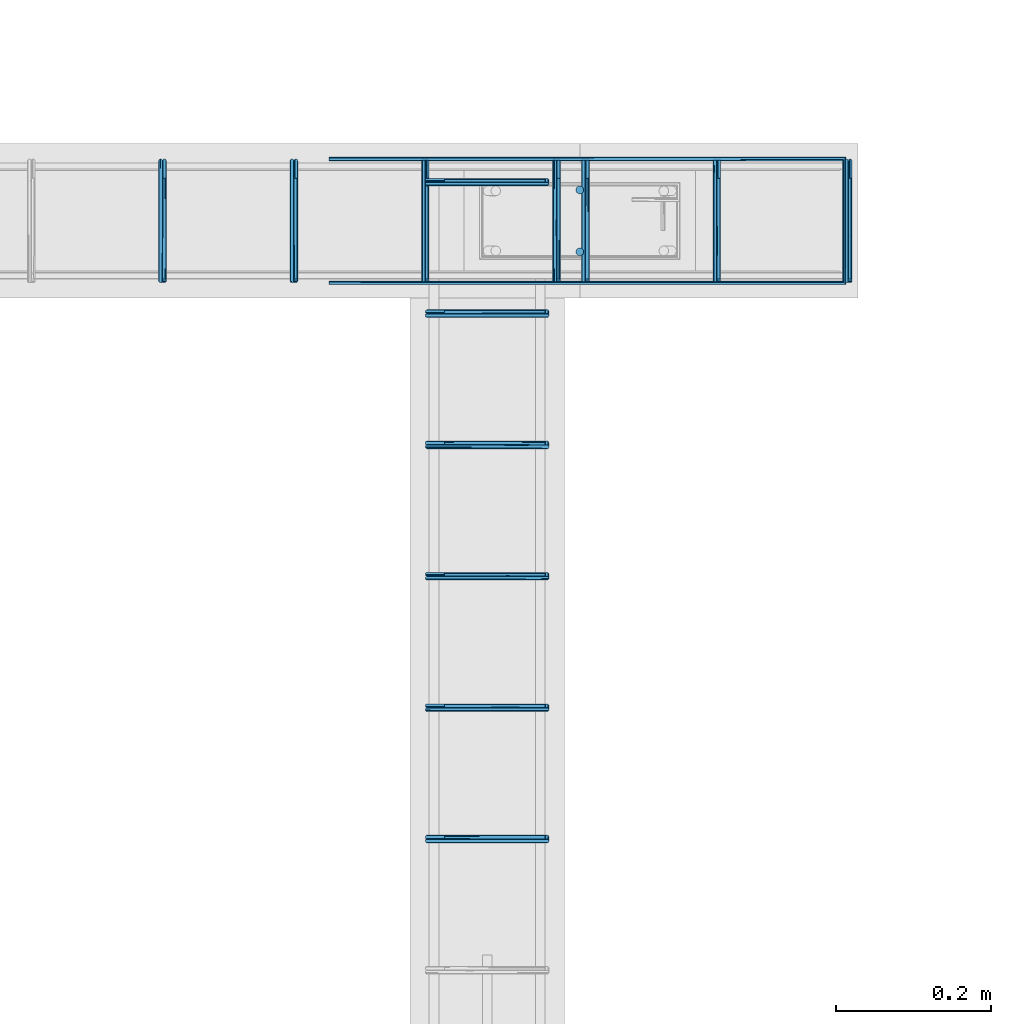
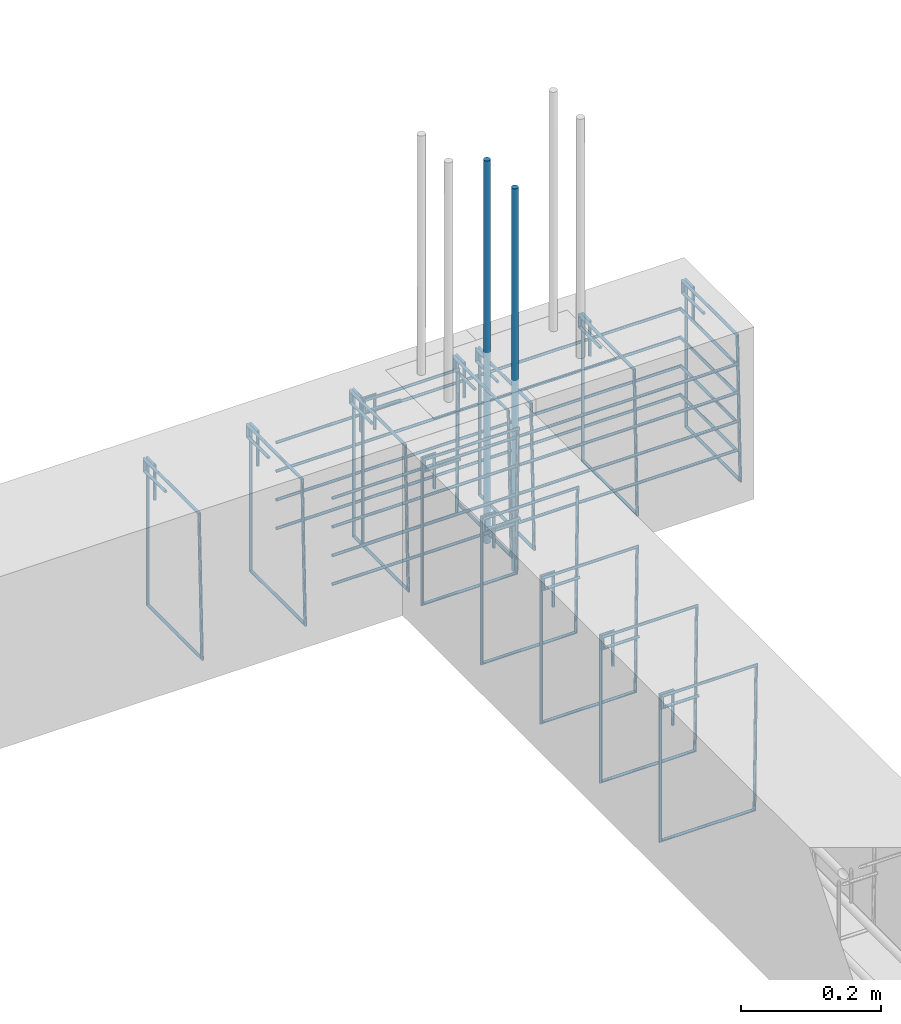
# One storey, part 146 of 150: 19 reinforcing bars.
"""IFC4 building model written with IfcOpenShell, lengths in centimetres."""

from ifc_helpers import new_model, entity, si_unit, derived_unit, frame, origin_with_axes, place, context, project, spatial, source, transform, mapped, element, save


model = new_model("IFC4")

# Units and contexts
model_context = context("Model", 3, precision=1e-05, world=origin_with_axes(), identifier="Body")
ifc_project = project(units=[si_unit("LENGTHUNIT", "METRE", prefix="CENTI"), si_unit("VOLUMEUNIT", "CUBIC_METRE"), si_unit("AREAUNIT", "SQUARE_METRE"), si_unit("POWERUNIT", "WATT"), si_unit("LUMINOUSFLUXUNIT", "LUMEN"), si_unit("ELECTRICCURRENTUNIT", "AMPERE"), si_unit("PRESSUREUNIT", "PASCAL", prefix="KILO"), si_unit("MASSUNIT", "GRAM", prefix="KILO"), si_unit("PLANEANGLEUNIT", "RADIAN"), derived_unit("VOLUMETRICFLOWRATEUNIT", [(si_unit("LENGTHUNIT", "METRE"), 3), (si_unit("TIMEUNIT", "SECOND"), -1)])], contexts=[model_context])

# Site, building, storey
site_placement = place(None, frame((-4000.0, 0.0, 0.0), z_axis=(0.0, 0.0, 1.0), x_axis=(1.0, 0.0, 0.0)))
site = spatial("IfcSite", under=ifc_project, at=site_placement, Name="PADRÃO")
building_placement = place(site_placement, frame((0.0, 0.0, -14.0)))
building = spatial("IfcBuilding", under=site, at=building_placement, Name="CRECHE PRÉ-ESCOLA TIPO 2")
placement = place(building_placement, origin_with_axes())
storey_placement = place(placement, frame((0.0, 0.0, 30.0), z_axis=(0.0, 0.0, 1.0), x_axis=(1.0, 0.0, 0.0)))
storey = spatial("IfcBuildingStorey", under=building, at=storey_placement, Name="VIGA BALDRAME", CompositionType="ELEMENT", Elevation=16.0)

# Reinforcing bars
shared_shape_1 = source(origin_with_axes(), model_context, "Body", "AdvancedSweptSolid", [
    entity("IfcSweptDiskSolid", entity("IfcCompositeCurve", [entity("IfcCompositeCurveSegment", "CONTINUOUS", True, entity("IfcPolyline", [entity("IfcCartesianPoint", [2.0, -6.0, 0.0]), entity("IfcCartesianPoint", [2.0, 0.0, 0.0])])), entity("IfcCompositeCurveSegment", "CONTINUOUS", True, entity("IfcPolyline", [entity("IfcCartesianPoint", [2.0, 0.0, 0.0]), entity("IfcCartesianPoint", [0.0, 0.0, 0.0])])), entity("IfcCompositeCurveSegment", "CONTINUOUS", True, entity("IfcPolyline", [entity("IfcCartesianPoint", [0.0, 0.0, 0.0]), entity("IfcCartesianPoint", [0.0, -25.5, 0.0])])), entity("IfcCompositeCurveSegment", "CONTINUOUS", True, entity("IfcPolyline", [entity("IfcCartesianPoint", [0.0, -25.5, 0.0]), entity("IfcCartesianPoint", [15.5, -25.5, 0.0])])), entity("IfcCompositeCurveSegment", "CONTINUOUS", True, entity("IfcPolyline", [entity("IfcCartesianPoint", [15.5, -25.5, 0.0]), entity("IfcCartesianPoint", [15.5, 0.0, 0.5])])), entity("IfcCompositeCurveSegment", "CONTINUOUS", True, entity("IfcPolyline", [entity("IfcCartesianPoint", [15.5, 0.0, 0.5]), entity("IfcCartesianPoint", [0.0, 0.0, 0.5])])), entity("IfcCompositeCurveSegment", "CONTINUOUS", True, entity("IfcPolyline", [entity("IfcCartesianPoint", [0.0, 0.0, 0.5]), entity("IfcCartesianPoint", [0.0, -2.0, 0.5])])), entity("IfcCompositeCurveSegment", "CONTINUOUS", True, entity("IfcPolyline", [entity("IfcCartesianPoint", [0.0, -2.0, 0.5]), entity("IfcCartesianPoint", [6.0, -2.0, 0.5])]))], False), 0.25),
])
for number, where, z_axis, x_axis, name in (
    (1, (3355.25, 3992.76, -2.25), (-1.0, 0.0, 0.0), (0.0, -1.0, 0.0), "V107 - Estribo"),
    (2, (3338.25, 3992.76, -2.25), (-1.0, 0.0, 0.0), (0.0, -1.0, 0.0), "V107 - Estribo"),
    (3, (3321.25, 3992.76, -2.25), (-1.0, 0.0, 0.0), (0.0, -1.0, 0.0), "V107 - Estribo"),
    (4, (3372.25, 3992.76, -2.25), (-1.0, 0.0, 0.0), (0.0, -1.0, 0.0), "V107 - Estribo"),
):
    element("IfcReinforcingBar", number, at=place(storey_placement, frame(where, z_axis=z_axis, x_axis=x_axis)), inside=storey, Name=name, BarLength=0.0, CrossSectionArea=1.9634954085e-05, NominalDiameter=0.5, PredefinedType="MAIN", context=model_context, shape_type="MappedRepresentation", body=[
        mapped(shared_shape_1, transform((0.0, 0.0, 0.0), scale=1.0)),
    ])
shared_shape_2 = source(origin_with_axes(), model_context, "Body", "AdvancedSweptSolid", [
    entity("IfcSweptDiskSolid", entity("IfcCompositeCurve", [entity("IfcCompositeCurveSegment", "CONTINUOUS", True, entity("IfcPolyline", [entity("IfcCartesianPoint", [2.0, -6.0, 0.0]), entity("IfcCartesianPoint", [2.0, 0.0, 0.0])])), entity("IfcCompositeCurveSegment", "CONTINUOUS", True, entity("IfcPolyline", [entity("IfcCartesianPoint", [2.0, 0.0, 0.0]), entity("IfcCartesianPoint", [0.0, 0.0, 0.0])])), entity("IfcCompositeCurveSegment", "CONTINUOUS", True, entity("IfcPolyline", [entity("IfcCartesianPoint", [0.0, 0.0, 0.0]), entity("IfcCartesianPoint", [0.0, -25.5, 0.0])])), entity("IfcCompositeCurveSegment", "CONTINUOUS", True, entity("IfcPolyline", [entity("IfcCartesianPoint", [0.0, -25.5, 0.0]), entity("IfcCartesianPoint", [15.5, -25.5, 0.0])])), entity("IfcCompositeCurveSegment", "CONTINUOUS", True, entity("IfcPolyline", [entity("IfcCartesianPoint", [15.5, -25.5, 0.0]), entity("IfcCartesianPoint", [15.5, 0.0, 0.5])])), entity("IfcCompositeCurveSegment", "CONTINUOUS", True, entity("IfcPolyline", [entity("IfcCartesianPoint", [15.5, 0.0, 0.5]), entity("IfcCartesianPoint", [0.0, 0.0, 0.5])])), entity("IfcCompositeCurveSegment", "CONTINUOUS", True, entity("IfcPolyline", [entity("IfcCartesianPoint", [0.0, 0.0, 0.5]), entity("IfcCartesianPoint", [0.0, -2.0, 0.5])])), entity("IfcCompositeCurveSegment", "CONTINUOUS", True, entity("IfcPolyline", [entity("IfcCartesianPoint", [0.0, -2.0, 0.5]), entity("IfcCartesianPoint", [6.0, -2.0, 0.5])]))], False), 0.25),
])
for number, where, z_axis, x_axis, name in (
    (5, (3375.99, 3992.76, -2.25), (-1.0, 0.0, 0.0), (0.0, -1.0, 0.0), "V107 - Estribo"),
    (6, (3409.99, 3992.76, -2.25), (-1.0, 0.0, 0.0), (0.0, -1.0, 0.0), "V107 - Estribo"),
    (7, (3392.99, 3992.76, -2.25), (-1.0, 0.0, 0.0), (0.0, -1.0, 0.0), "V107 - Estribo"),
):
    element("IfcReinforcingBar", number, at=place(storey_placement, frame(where, z_axis=z_axis, x_axis=x_axis)), inside=storey, Name=name, BarLength=0.0, CrossSectionArea=1.9634954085e-05, NominalDiameter=0.5, PredefinedType="MAIN", context=model_context, shape_type="MappedRepresentation", body=[
        mapped(shared_shape_2, transform((0.0, 0.0, 0.0), scale=1.0)),
    ])
shared_shape_3 = source(origin_with_axes(), model_context, "Body", "AdvancedSweptSolid", [
    entity("IfcSweptDiskSolid", entity("IfcCompositeCurve", [entity("IfcCompositeCurveSegment", "CONTINUOUS", True, entity("IfcPolyline", [entity("IfcCartesianPoint", [0.0, 0.0, 0.0]), entity("IfcCartesianPoint", [66.6813828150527, 0.0, 0.0])])), entity("IfcCompositeCurveSegment", "CONTINUOUS", True, entity("IfcPolyline", [entity("IfcCartesianPoint", [66.6813828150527, 0.0, 0.0]), entity("IfcCartesianPoint", [66.6813828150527, 16.0, 0.0])])), entity("IfcCompositeCurveSegment", "CONTINUOUS", True, entity("IfcPolyline", [entity("IfcCartesianPoint", [66.6813828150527, 16.0, 0.0]), entity("IfcCartesianPoint", [0.0, 16.0, 0.0])]))], False), 0.25),
])
for number, where, z_axis, x_axis, name in (
    (8, (3342.54861718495, 3977.01, -7.1), (0.0, 0.0, 1.0), (1.0, 0.0, 0.0), "V107 - Grampo"),
    (9, (3342.54861718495, 3977.01, -12.1), (0.0, 0.0, 1.0), (1.0, 0.0, 0.0), "V107 - Grampo"),
    (10, (3342.54861718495, 3977.01, -22.1), (0.0, 0.0, 1.0), (1.0, 0.0, 0.0), "V107 - Grampo"),
    (11, (3342.54861718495, 3977.01, -17.1), (0.0, 0.0, 1.0), (1.0, 0.0, 0.0), "V107 - Grampo"),
):
    element("IfcReinforcingBar", number, at=place(storey_placement, frame(where, z_axis=z_axis, x_axis=x_axis)), inside=storey, Name=name, BarLength=0.0, CrossSectionArea=1.9634954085e-05, NominalDiameter=0.5, PredefinedType="MAIN", context=model_context, shape_type="MappedRepresentation", body=[
        mapped(shared_shape_3, transform((0.0, 0.0, 0.0), scale=1.0)),
    ])
shared_shape_4 = source(origin_with_axes(), model_context, "Body", "AdvancedSweptSolid", [
    entity("IfcSweptDiskSolid", entity("IfcCompositeCurve", [entity("IfcCompositeCurveSegment", "CONTINUOUS", True, entity("IfcPolyline", [entity("IfcCartesianPoint", [2.0, -6.0, 0.0]), entity("IfcCartesianPoint", [2.0, 0.0, 0.0])])), entity("IfcCompositeCurveSegment", "CONTINUOUS", True, entity("IfcPolyline", [entity("IfcCartesianPoint", [2.0, 0.0, 0.0]), entity("IfcCartesianPoint", [0.0, 0.0, 0.0])])), entity("IfcCompositeCurveSegment", "CONTINUOUS", True, entity("IfcPolyline", [entity("IfcCartesianPoint", [0.0, 0.0, 0.0]), entity("IfcCartesianPoint", [0.0, -25.5, 0.0])])), entity("IfcCompositeCurveSegment", "CONTINUOUS", True, entity("IfcPolyline", [entity("IfcCartesianPoint", [0.0, -25.5, 0.0]), entity("IfcCartesianPoint", [15.5, -25.5, 0.0])])), entity("IfcCompositeCurveSegment", "CONTINUOUS", True, entity("IfcPolyline", [entity("IfcCartesianPoint", [15.5, -25.5, 0.0]), entity("IfcCartesianPoint", [15.5, 0.0, 0.5])])), entity("IfcCompositeCurveSegment", "CONTINUOUS", True, entity("IfcPolyline", [entity("IfcCartesianPoint", [15.5, 0.0, 0.5]), entity("IfcCartesianPoint", [0.0, 0.0, 0.5])])), entity("IfcCompositeCurveSegment", "CONTINUOUS", True, entity("IfcPolyline", [entity("IfcCartesianPoint", [0.0, 0.0, 0.5]), entity("IfcCartesianPoint", [0.0, -2.0, 0.5])])), entity("IfcCompositeCurveSegment", "CONTINUOUS", True, entity("IfcPolyline", [entity("IfcCartesianPoint", [0.0, -2.0, 0.5]), entity("IfcCartesianPoint", [6.0, -2.0, 0.5])]))], False), 0.25),
])
for number, where, z_axis, x_axis, name in (
    (12, (3355.25, 3939.265, -2.25), (0.0, -1.0, 0.0), (1.0, 0.0, 0.0), "V229 - Estribo"),
    (13, (3355.25, 3990.265, -2.25), (0.0, -1.0, 0.0), (1.0, 0.0, 0.0), "V229 - Estribo"),
    (14, (3355.25, 3956.265, -2.25), (0.0, -1.0, 0.0), (1.0, 0.0, 0.0), "V229 - Estribo"),
    (15, (3355.25, 3973.265, -2.25), (0.0, -1.0, 0.0), (1.0, 0.0, 0.0), "V229 - Estribo"),
    (16, (3355.25, 3905.265, -2.25), (0.0, -1.0, 0.0), (1.0, 0.0, 0.0), "V229 - Estribo"),
    (17, (3355.25, 3922.265, -2.25), (0.0, -1.0, 0.0), (1.0, 0.0, 0.0), "V229 - Estribo"),
):
    element("IfcReinforcingBar", number, at=place(storey_placement, frame(where, z_axis=z_axis, x_axis=x_axis)), inside=storey, Name=name, BarLength=0.0, CrossSectionArea=1.9634954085e-05, NominalDiameter=0.5, PredefinedType="MAIN", context=model_context, shape_type="MappedRepresentation", body=[
        mapped(shared_shape_4, transform((0.0, 0.0, 0.0), scale=1.0)),
    ])
for number, where, z_axis, x_axis, name in (
    (18, (3375.0, 3989.01, 33.3573001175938), (0.0, 0.0, 1.0), (1.0, 0.0, 0.0), "P28 - Longitudinal"),
    (19, (3375.0, 3981.01, 33.3573001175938), (0.0, 0.0, 1.0), (1.0, 0.0, 0.0), "P28 - Longitudinal"),
):
    element("IfcReinforcingBar", number, at=place(storey_placement, frame(where, z_axis=z_axis, x_axis=x_axis)), inside=storey, Name=name, BarLength=0.0, CrossSectionArea=7.853981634e-05, NominalDiameter=1.0, PredefinedType="MAIN", context=model_context, shape_type="AdvancedSweptSolid", body=[
        entity("IfcSweptDiskSolid", entity("IfcCompositeCurve", [entity("IfcCompositeCurveSegment", "CONTINUOUS", True, entity("IfcPolyline", [entity("IfcCartesianPoint", [0.0, 0.0, -66.7146002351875]), entity("IfcCartesianPoint", [0.0, 0.0, 0.0])]))], False), 0.5),
    ])

save(model, "model.ifc")
